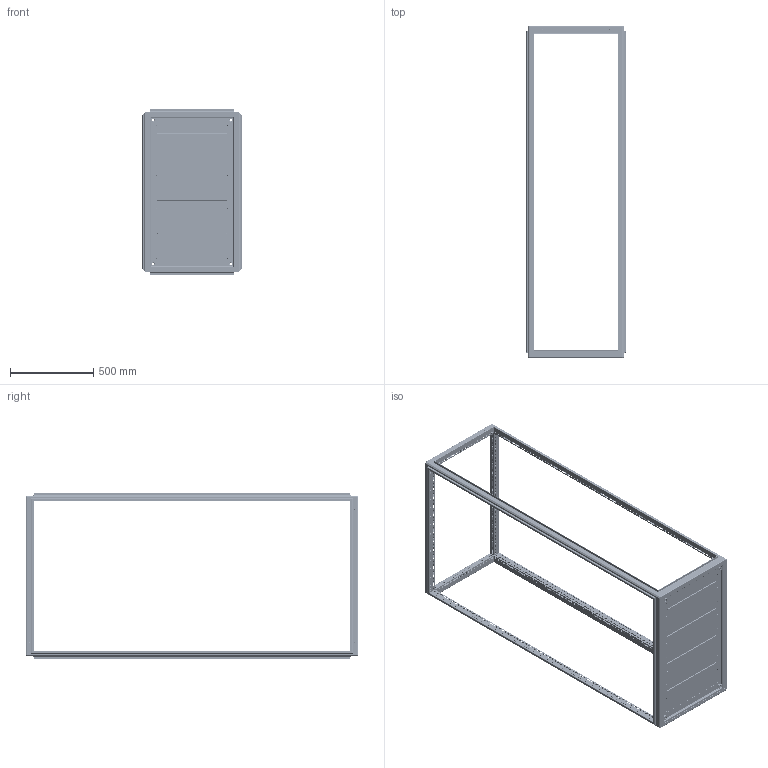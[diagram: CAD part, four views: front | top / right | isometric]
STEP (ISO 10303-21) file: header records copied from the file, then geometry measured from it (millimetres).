
FILE_DESCRIPTION(('STEP AP242'), '1');
FILE_NAME('ÊÑÊ.PRO.S.200.60.100 Êàðêàñ_ñåêöèîíèðîâàíèå', '', ('UNSPECIFIED'), ('UNSPECIFIED'), 'C3D Converter', 'C3D Toolkit', '');
FILE_SCHEMA(('AP242_MANAGED_MODEL_BASED_3D_ENGINEERING_MIM_LF { 1 0 10303 442 1 1 4 }'));
Length unit declared in the file: millimetre
Products named in the file (11): КСК.PRO.S.200.60.100; КСК.PRO.60.100; КСК.PRO.200; КСК.PRO.S.200; 2007.60.75; 2007.60.175; 2008.60.200
Assembly tree (29 placements, depth 2):
  КСК.PRO.S.200.60.100
    КСК.PRO.60.100
    КСК.PRO.200
    КСК.PRO.60.100
    КСК.PRO.200
    КСК.PRO.S.200
    КСК.PRO.S.200
    2007.60.75
    2007.60.175
    2008.60.200  x3
    (unnamed)  x18
Bounding box: 597 x 1997 x 997 mm (x, y, z)
Volume: 3952203.9 mm3; surface area: 5310130.4 mm2
Topology: 29 solids, 29 shells, 9827 faces, 27773 edges, 18213 vertices
Faces by surface type: plane 6959, cylinder 2284, cone 400, bspline 108, torus 44, sphere 32
Full cylindrical faces by diameter (mm): 3.242 x56, 4.134 x164, 4.5 x1490, 4.8 x18, 6 x56, 7 x164, 10.106 x4, 13.835 x4, 14 x4, 21.545 x4
Entity records: 330967 total; most frequent: CARTESIAN_POINT 53410, ORIENTED_EDGE 48234, DIRECTION 46908, EDGE_CURVE 24117, LINE 19518, VECTOR 19518, EDGE_LOOP 17716, VERTEX_POINT 17267
